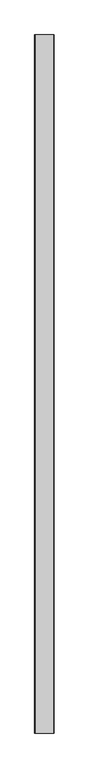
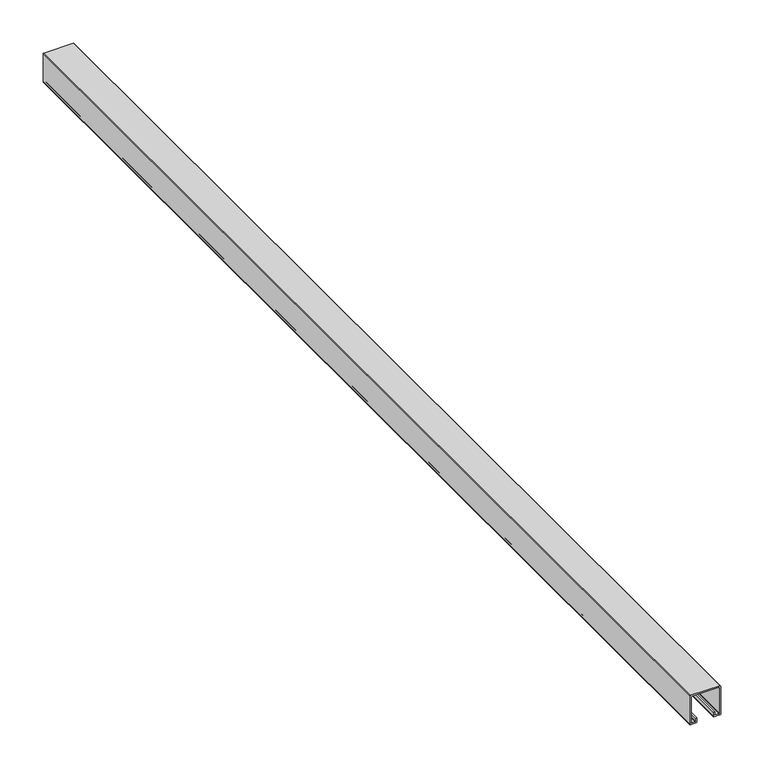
"""IFC4 building model written with IfcOpenShell, lengths in millimetres: proxy geometry, instalación_stratus 13.3dm."""

from ifc_helpers import new_model, si_unit, point, frame, frame_2d, origin, place, context, project, spatial, polyline, circle_curve, trimmed, segment, composite_curve, outline, extrude, source, transform, mapped, element, save


def generic_models_68fe945b(model_context):
    return source(origin(), model_context, "Body", "SweptSolid", [
        extrude(outline(composite_curve([segment(polyline([(-38.8, 314.725), (-35.2, 314.725)]), True, "CONTINUOUS"), segment(trimmed(circle_curve(frame_2d((-35.2, 313.725)), 1.0), [point((-35.2, 314.725))], [point((-35.2, 312.725))], False, "CARTESIAN"), True, "CONTINUOUS"), segment(polyline([(-35.2, 312.725), (-40.3, 312.725)]), True, "CONTINUOUS"), segment(trimmed(circle_curve(frame_2d((-40.3, 313.725)), 1.0), [point((-40.3, 312.725))], [point((-41.3, 313.725))], False, "CARTESIAN"), True, "CONTINUOUS"), segment(polyline([(-41.3, 313.725), (-41.3, 321.275)]), True, "CONTINUOUS"), segment(trimmed(circle_curve(frame_2d((-40.3, 321.275)), 1.0), [point((-41.3, 321.275))], [point((-40.3, 322.275))], False, "CARTESIAN"), True, "CONTINUOUS"), segment(polyline([(-40.3, 322.275), (-1.0, 322.275)]), True, "CONTINUOUS"), segment(trimmed(circle_curve(frame_2d((-1.0, 321.275)), 1.0), [point((-1.0, 322.275))], [point((0.0, 321.275))], False, "CARTESIAN"), True, "CONTINUOUS"), segment(polyline([(0.0, 321.275), (0.0, 281.975)]), True, "CONTINUOUS"), segment(trimmed(circle_curve(frame_2d((-1.0, 281.975)), 1.0), [point((0.0, 281.975))], [point((-1.0, 280.975))], False, "CARTESIAN"), True, "CONTINUOUS"), segment(polyline([(-1.0, 280.975), (-40.3, 280.975)]), True, "CONTINUOUS"), segment(trimmed(circle_curve(frame_2d((-40.3, 281.975)), 1.0), [point((-40.3, 280.975))], [point((-41.3, 281.975))], False, "CARTESIAN"), True, "CONTINUOUS"), segment(polyline([(-41.3, 281.975), (-41.3, 289.525)]), True, "CONTINUOUS"), segment(trimmed(circle_curve(frame_2d((-40.3, 289.525)), 1.0), [point((-41.3, 289.525))], [point((-40.3, 290.525))], False, "CARTESIAN"), True, "CONTINUOUS"), segment(polyline([(-40.3, 290.525), (-35.2, 290.525)]), True, "CONTINUOUS"), segment(trimmed(circle_curve(frame_2d((-35.2, 289.525)), 1.0), [point((-35.2, 290.525))], [point((-35.2, 288.525))], False, "CARTESIAN"), True, "CONTINUOUS"), segment(polyline([(-35.2, 288.525), (-38.8, 288.525)]), True, "CONTINUOUS"), segment(trimmed(circle_curve(frame_2d((-38.8, 288.025)), 0.5), [point((-38.8, 288.525))], [point((-39.3, 288.025))], True, "CARTESIAN"), True, "CONTINUOUS"), segment(polyline([(-39.3, 288.025), (-39.3, 283.475)]), True, "CONTINUOUS"), segment(trimmed(circle_curve(frame_2d((-38.8, 283.475)), 0.5), [point((-39.3, 283.475))], [point((-38.8, 282.975))], True, "CARTESIAN"), True, "CONTINUOUS"), segment(polyline([(-38.8, 282.975), (-2.5, 282.975)]), True, "CONTINUOUS"), segment(trimmed(circle_curve(frame_2d((-2.5, 283.475)), 0.5), [point((-2.5, 282.975))], [point((-2.0, 283.475))], True, "CARTESIAN"), True, "CONTINUOUS"), segment(polyline([(-2.0, 283.475), (-2.0, 319.775)]), True, "CONTINUOUS"), segment(trimmed(circle_curve(frame_2d((-2.5, 319.775)), 0.5), [point((-2.0, 319.775))], [point((-2.5, 320.275))], True, "CARTESIAN"), True, "CONTINUOUS"), segment(polyline([(-2.5, 320.275), (-38.8, 320.275)]), True, "CONTINUOUS"), segment(trimmed(circle_curve(frame_2d((-38.8, 319.775)), 0.5), [point((-38.8, 320.275))], [point((-39.3, 319.775))], True, "CARTESIAN"), True, "CONTINUOUS"), segment(polyline([(-39.3, 319.775), (-39.3, 315.225)]), True, "CONTINUOUS"), segment(trimmed(circle_curve(frame_2d((-38.8, 315.225)), 0.5), [point((-39.3, 315.225))], [point((-38.8, 314.725))], True, "CARTESIAN"), True, "CONTINUOUS")], self_intersect=False)), frame((0.0, 0.0, 0.0), z_axis=(0.0, 1.0, 0.0), x_axis=(0.0, 0.0, 1.0)), (0.0, 0.0, 1.0), 1498.6),
    ])


if __name__ == "__main__":
    model = new_model("IFC4")
    model_context = context("Model", 3, world=origin())
    ifc_project = project(units=[si_unit("LENGTHUNIT", "METRE", prefix="MILLI")], contexts=[model_context])
    site = spatial("IfcSite", under=ifc_project)
    building = spatial("IfcBuilding", under=site)
    placement = place(None, origin())
    generic_models_shape = generic_models_68fe945b(model_context)
    element("IfcBuildingElementProxy", 1, Name="instalación_stratus 13.3dm", ObjectType="instalación_stratus 13.3dm", at=placement, inside=building, context=model_context, shape_type="MappedRepresentation", body=[
        mapped(generic_models_shape, transform((0.0, 0.0, 0.0), x_axis=(1.0, 0.0, 0.0), y_axis=(0.0, 1.0, 0.0), z_axis=(0.0, 0.0, 1.0))),
    ])
    save(model, "model.ifc")
